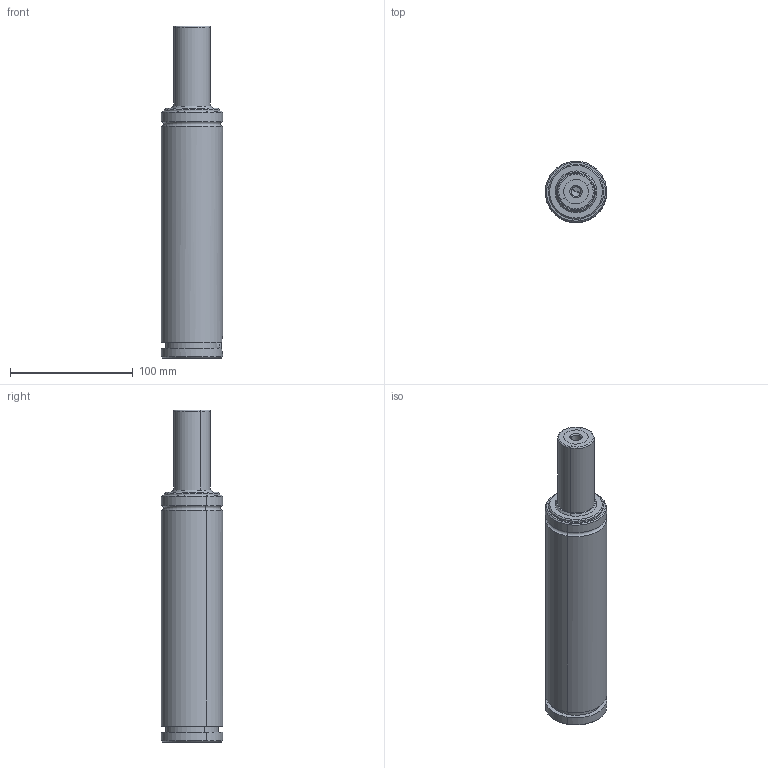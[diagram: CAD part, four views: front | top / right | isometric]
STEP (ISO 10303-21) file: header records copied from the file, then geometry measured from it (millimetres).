
FILE_DESCRIPTION(('CATIA V5 STEP Exchange'),'2;1');
FILE_NAME('W:\CATALOGO GENERAL 2018\FICHEROS CAD\006-TPF\TPFS 1800\TPFS1800x65.stp','2017-11-21T14:18:00+00:00',('none'),('none'),'CATIA Version 5 Release 17 (IN-10)','CATIA V5 STEP AP203','none');
FILE_SCHEMA(('CONFIG_CONTROL_DESIGN'));
Length unit declared in the file: millimetre
Products named in the file (1): TPFS 1800x65
Assembly tree (3 placements, depth 2):
  TPFS 1800x65
    #56
    #1339
    #1920
Bounding box: 49.99 x 49.99 x 271 mm (x, y, z)
Volume: 462899.7 mm3; surface area: 52352.9 mm2
Topology: 4 solids, 4 shells, 150 faces, 318 edges, 180 vertices
Faces by surface type: cone 58, cylinder 37, torus 30, plane 25
Entity records: 3661 total; most frequent: CARTESIAN_POINT 665, ORIENTED_EDGE 620, DIRECTION 502, EDGE_CURVE 310, AXIS2_PLACEMENT_3D 289, CIRCLE 186, VERTEX_POINT 180, EDGE_LOOP 164
